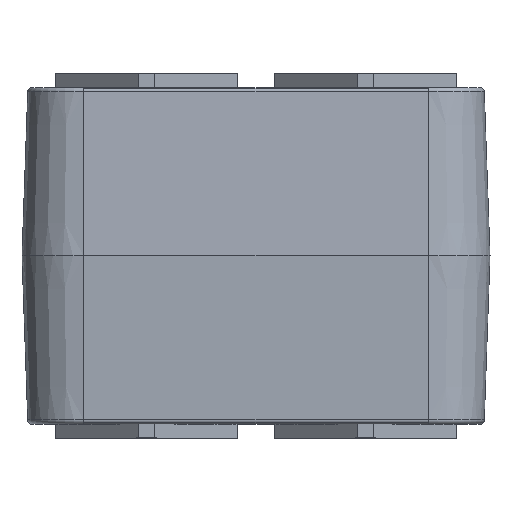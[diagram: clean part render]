
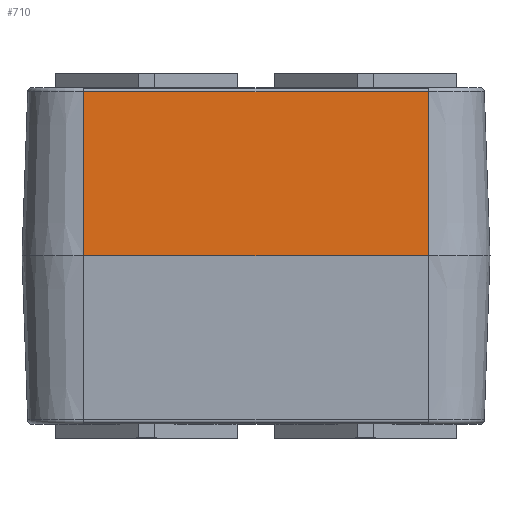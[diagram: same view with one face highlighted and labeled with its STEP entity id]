
A CAD part, top view. The second image highlights one B-rep face of the part: STEP entity #710.
In plain terms, the highlighted planar face has unit normal (0, 0.035, 0.999).
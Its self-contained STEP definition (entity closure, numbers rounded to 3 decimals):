
#457=CARTESIAN_POINT('',(-98.611,118.552,55.942));
#458=VERTEX_POINT('',#457);
#527=CARTESIAN_POINT('',(24.389,118.552,55.942));
#528=VERTEX_POINT('',#527);
#529=CARTESIAN_POINT('',(-98.611,118.552,55.942));
#530=DIRECTION('',(1.0,0.0,0.0));
#531=VECTOR('',#530,123.);
#532=LINE('',#529,#531);
#533=EDGE_CURVE('',#458,#528,#532,.T.);
#661=CARTESIAN_POINT('',(24.389,60.0,57.986));
#662=VERTEX_POINT('',#661);
#663=CARTESIAN_POINT('',(24.389,60.0,57.986));
#664=DIRECTION('',(0.0,0.999,-0.035));
#665=VECTOR('',#664,58.588);
#666=LINE('',#663,#665);
#667=EDGE_CURVE('',#662,#528,#666,.T.);
#687=CARTESIAN_POINT('',(24.389,0.037,60.08));
#688=DIRECTION('',(0.0,0.035,0.999));
#689=DIRECTION('',(1.0,0.0,0.0));
#690=AXIS2_PLACEMENT_3D('',#687,#688,#689);
#691=PLANE('',#690);
#692=ORIENTED_EDGE('',*,*,#533,.F.);
#693=CARTESIAN_POINT('',(-98.611,60.0,57.986));
#694=VERTEX_POINT('',#693);
#695=CARTESIAN_POINT('',(-98.611,60.0,57.986));
#696=DIRECTION('',(0.0,0.999,-0.035));
#697=VECTOR('',#696,58.588);
#698=LINE('',#695,#697);
#699=EDGE_CURVE('',#694,#458,#698,.T.);
#700=ORIENTED_EDGE('',*,*,#699,.F.);
#701=CARTESIAN_POINT('',(24.389,60.0,57.986));
#702=DIRECTION('',(-1.0,0.0,0.0));
#703=VECTOR('',#702,123.);
#704=LINE('',#701,#703);
#705=EDGE_CURVE('',#662,#694,#704,.T.);
#706=ORIENTED_EDGE('',*,*,#705,.F.);
#707=ORIENTED_EDGE('',*,*,#667,.T.);
#708=EDGE_LOOP('',(#692,#700,#706,#707));
#709=FACE_OUTER_BOUND('',#708,.T.);
#710=ADVANCED_FACE('',(#709),#691,.T.);
